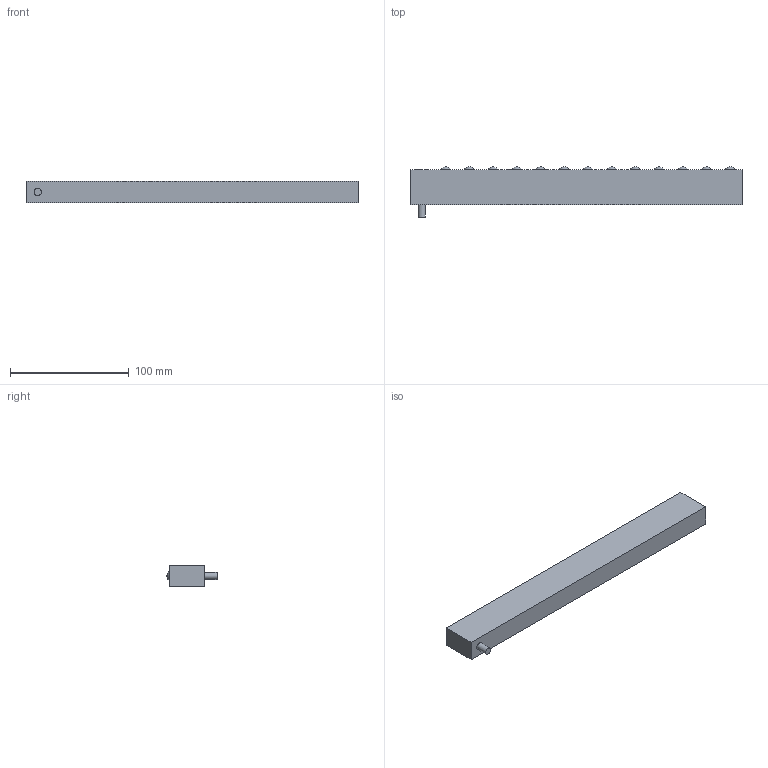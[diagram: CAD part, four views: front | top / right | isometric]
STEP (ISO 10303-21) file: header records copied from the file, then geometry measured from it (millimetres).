
FILE_DESCRIPTION(/* description */ (''),/* implementation_level */ '2;1');
FILE_NAME(/* name */ 'V:\Shrinkwrap\EMB\EMB - SHRINKWRAP\EMB18-13_Shrinkwrap_1.stp',/* time_stamp */ '2022-08-12T10:00:44+02:00',/* author */ ('cw'),/* organization */ (''),/* preprocessor_version */ 'ST-DEVELOPER v17',/* originating_system */ 'Autodesk Inventor 2019',/* authorisation */ '');
FILE_SCHEMA (('AUTOMOTIVE_DESIGN { 1 0 10303 214 3 1 1 }'));
Length unit declared in the file: millimetre
Products named in the file (1): EMB18-13_Shrinkwrap_1
Bounding box: 280 x 42.27 x 17.8 mm (x, y, z)
Volume: 148249.2 mm3; surface area: 29389.7 mm2
Topology: 1 solids, 1 shells, 27 faces, 41 edges, 35 vertices
Faces by surface type: sphere 13, plane 10, cylinder 4
Full cylindrical faces by diameter (mm): 6 x1, 6.5 x1, 10 x1, 11 x1
Entity records: 721 total; most frequent: DIRECTION 118, CARTESIAN_POINT 102, ORIENTED_EDGE 78, AXIS2_PLACEMENT_3D 51, EDGE_LOOP 44, EDGE_CURVE 39, VERTEX_POINT 31, STYLED_ITEM 30
